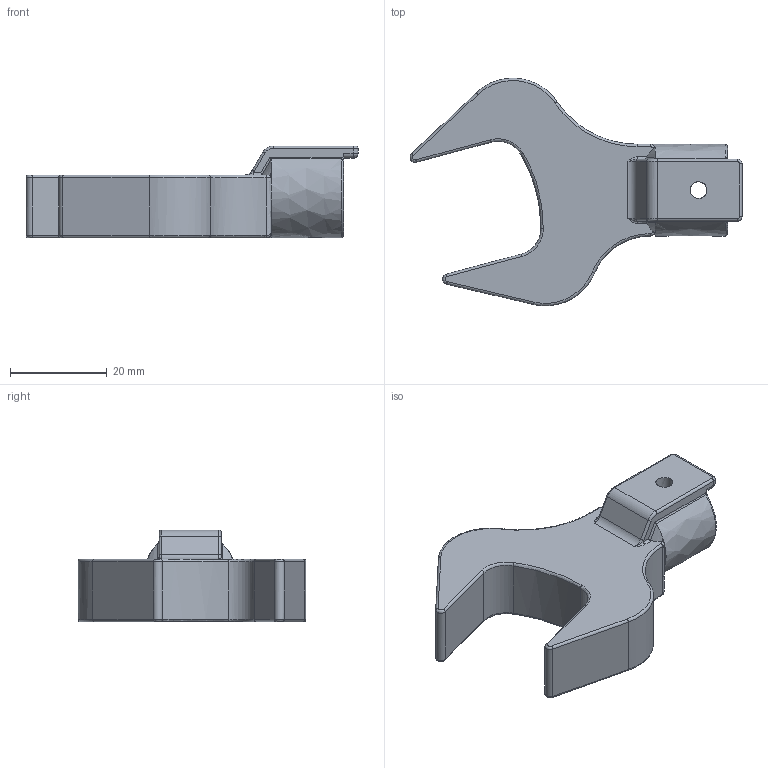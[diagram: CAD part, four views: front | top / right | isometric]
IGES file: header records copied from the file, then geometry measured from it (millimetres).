
Global section: file name: SH12DX24; native system: Autodesk Inventor 2016; preprocessor: unknown; author: Q532; date: 20151029.190615; units: millimetre
Bounding box: 68.72 x 47.1 x 19 mm (x, y, z)
Volume: 17526.9 mm3; surface area: 6454.1 mm2
Topology: 1 solids, 1 shells, 108 faces, 269 edges, 156 vertices
Faces by surface type: bspline 108
